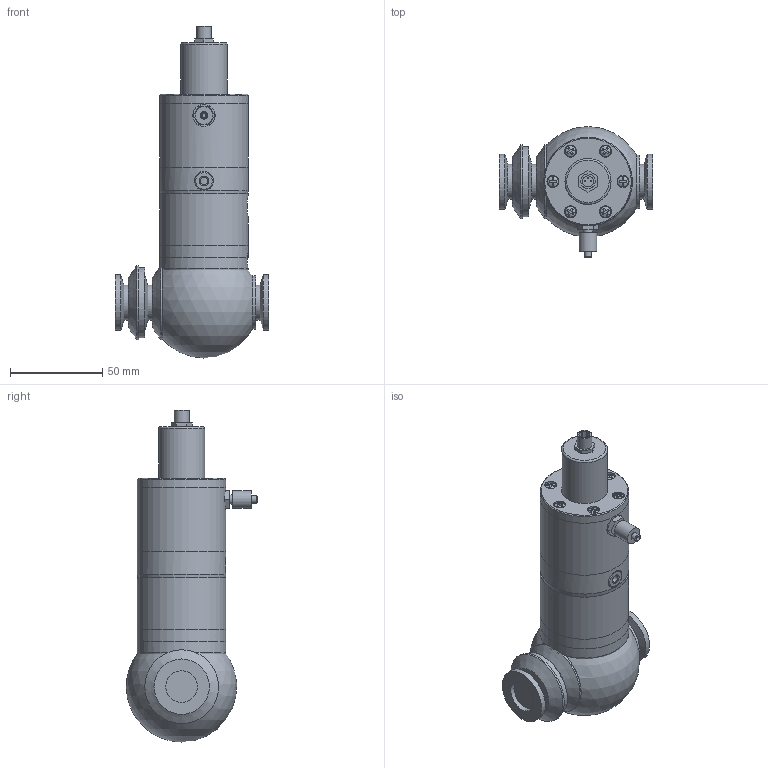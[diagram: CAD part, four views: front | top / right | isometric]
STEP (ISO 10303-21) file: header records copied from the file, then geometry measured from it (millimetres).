
FILE_DESCRIPTION( ( 'Unknown' ), '1' );
FILE_NAME( 'X:/Daten ( aktueller Bestand )/Projekte und Zeichnungen/Solid Edge/21 Eck + Durchgangsventile KF ISO-K, el.pneumatisch/VA/Durchgangsventil/NW16/Internet/313221.stp', 'Unknown', ( 'Unknown' ), ( 'Unknown' ), 'XStep 1.0', 'Unknown', ' ' );
FILE_SCHEMA( ( 'automotive_design' ) );
Length unit declared in the file: millimetre
Products named in the file (12): Assem1; 3032-1; 3032-2; 3032-3; 3032-4; 3102-1; 3102-2; 3102-5; Schraube 3x8; Anschluss Festo; M3x4; 3102-6
Bounding box: 83 x 71.19 x 180 mm (x, y, z)
Volume: 327260.4 mm3; surface area: 131670.4 mm2
Topology: 28 solids, 28 shells, 475 faces, 1015 edges, 671 vertices
Faces by surface type: plane 263, cylinder 147, cone 52, sphere 11, torus 2
Full cylindrical faces by diameter (mm): 0.5 x6, 2 x2, 2.459 x12, 2.8 x2, 3 x10, 3.242 x4, 3.3 x12, 4 x2, 4.134 x4, 5 x4, 5.793 x7, 6 x4, 6.5 x12, 7.459 x2, 8 x2, 9.518 x2, 10 x2, 10.3 x2, 12 x2, 17.2 x4, 19 x6, 20 x2, 25 x2, 26 x2, 27 x4, 29 x2, 30 x4, 31 x4, 33.739 x2, 37.97 x2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
Entity records: 4969 total; most frequent: CARTESIAN_POINT 1137, DIRECTION 802, ORIENTED_EDGE 496, AXIS2_PLACEMENT_3D 361, EDGE_LOOP 343, FACE_OUTER_BOUND 255, EDGE_CURVE 248, VERTEX_POINT 222
